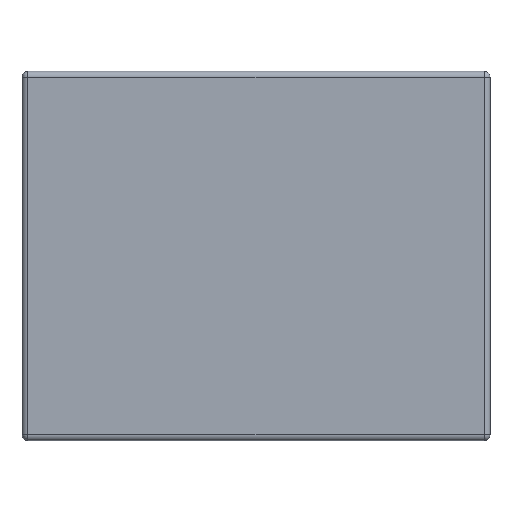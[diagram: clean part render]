
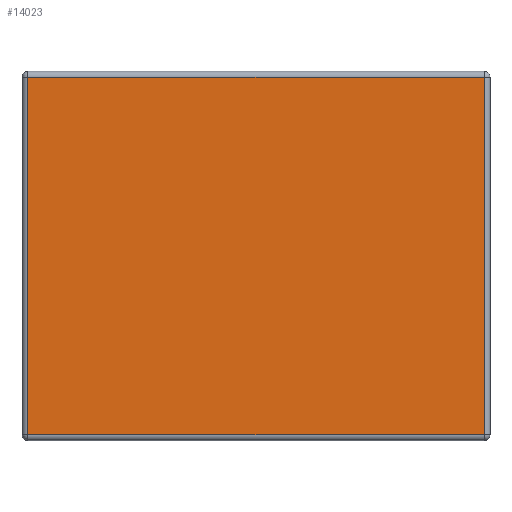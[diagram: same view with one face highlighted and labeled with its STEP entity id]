
A CAD part, front view. The second image highlights one B-rep face of the part: STEP entity #14023.
In plain terms, the highlighted planar face has unit normal (0, -1, 0).
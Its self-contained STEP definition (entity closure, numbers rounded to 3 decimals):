
#140 = DIRECTION ( 'NONE',  ( -1., 0., 0. ) ) ;
#914 = CARTESIAN_POINT ( 'NONE',  ( 92.6, 0., -72.6 ) ) ;
#996 = DIRECTION ( 'NONE',  ( 0., 0., -1. ) ) ;
#1008 = CARTESIAN_POINT ( 'NONE',  ( -92.6, 0., -72.6 ) ) ;
#1536 = VECTOR ( 'NONE', #11817, 1000. ) ;
#2225 = VERTEX_POINT ( 'NONE', #914 ) ;
#2923 = CARTESIAN_POINT ( 'NONE',  ( -95., 0., 72.6 ) ) ;
#3004 = ORIENTED_EDGE ( 'NONE', *, *, #17203, .T. ) ;
#3346 = VERTEX_POINT ( 'NONE', #1008 ) ;
#3354 = CARTESIAN_POINT ( 'NONE',  ( 92.6, 0., 75. ) ) ;
#3586 = EDGE_CURVE ( 'NONE', #2225, #3869, #7259, .T. ) ;
#3869 = VERTEX_POINT ( 'NONE', #16218 ) ;
#4345 = VECTOR ( 'NONE', #5796, 1000. ) ;
#5646 = FACE_OUTER_BOUND ( 'NONE', #8592, .T. ) ;
#5796 = DIRECTION ( 'NONE',  ( 0., 0., 1. ) ) ;
#6763 = EDGE_CURVE ( 'NONE', #3869, #9962, #14589, .T. ) ;
#7259 = LINE ( 'NONE', #3354, #4345 ) ;
#8501 = CARTESIAN_POINT ( 'NONE',  ( 0., 0., 0. ) ) ;
#8592 = EDGE_LOOP ( 'NONE', ( #12362, #12134, #11250, #3004 ) ) ;
#8969 = CARTESIAN_POINT ( 'NONE',  ( -92.6, 0., 72.6 ) ) ;
#9535 = DIRECTION ( 'NONE',  ( 0., 0., -1. ) ) ;
#9962 = VERTEX_POINT ( 'NONE', #8969 ) ;
#10596 = LINE ( 'NONE', #10683, #1536 ) ;
#10683 = CARTESIAN_POINT ( 'NONE',  ( 0., 0., -72.6 ) ) ;
#10951 = DIRECTION ( 'NONE',  ( 0., -1., 0. ) ) ;
#11250 = ORIENTED_EDGE ( 'NONE', *, *, #6763, .T. ) ;
#11620 = CARTESIAN_POINT ( 'NONE',  ( -92.6, 0., 0. ) ) ;
#11817 = DIRECTION ( 'NONE',  ( 1., 0., 0. ) ) ;
#12134 = ORIENTED_EDGE ( 'NONE', *, *, #3586, .T. ) ;
#12362 = ORIENTED_EDGE ( 'NONE', *, *, #13902, .T. ) ;
#12703 = AXIS2_PLACEMENT_3D ( 'NONE', #8501, #10951, #9535 ) ;
#12836 = LINE ( 'NONE', #11620, #14833 ) ;
#13728 = PLANE ( 'NONE',  #12703 ) ;
#13902 = EDGE_CURVE ( 'NONE', #3346, #2225, #10596, .T. ) ;
#14023 = ADVANCED_FACE ( 'NONE', ( #5646 ), #13728, .T. ) ;
#14589 = LINE ( 'NONE', #2923, #16931 ) ;
#14833 = VECTOR ( 'NONE', #996, 1000. ) ;
#16218 = CARTESIAN_POINT ( 'NONE',  ( 92.6, 0., 72.6 ) ) ;
#16931 = VECTOR ( 'NONE', #140, 1000. ) ;
#17203 = EDGE_CURVE ( 'NONE', #9962, #3346, #12836, .T. ) ;
